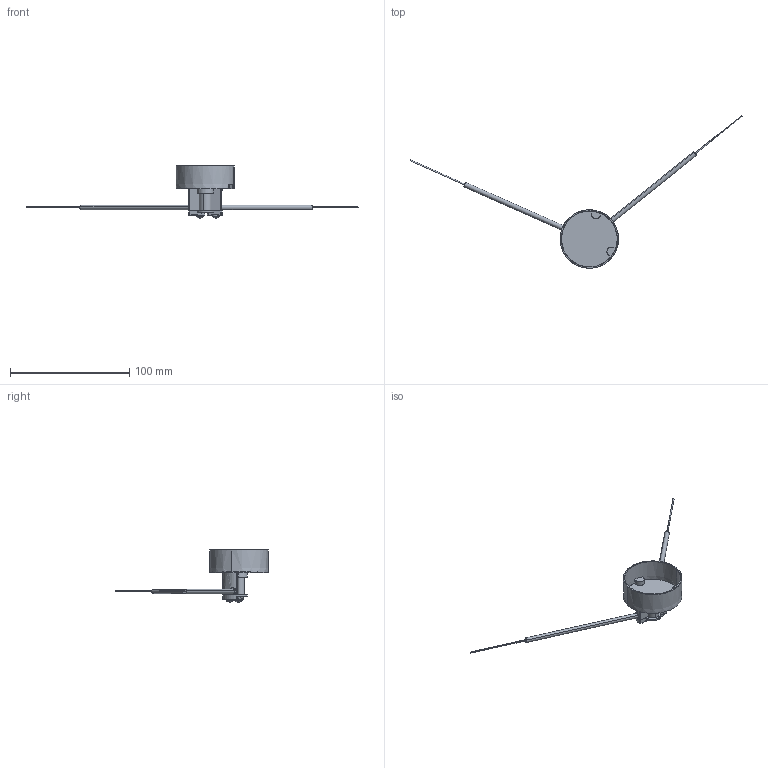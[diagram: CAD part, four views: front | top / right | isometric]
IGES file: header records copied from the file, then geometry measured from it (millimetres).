
Start section: SolidWorks IGES file using analytic representation for surfaces
Global section: file name: C:\Users\Toshiba\Desktop\FU-20PRO.IGS; native system: SolidWorks 2014; preprocessor: SolidWorks 2014; author: Toshiba; date: 160621.083928; units: metre
Bounding box: 278.31 x 127.85 x 43.61 mm (x, y, z)
Surface area: 16782.4 mm2 (no closed solid volume)
Topology: 0 solids, 0 shells, 169 faces, 2386 edges, 2384 vertices
Faces by surface type: bspline 87, revolution 82
